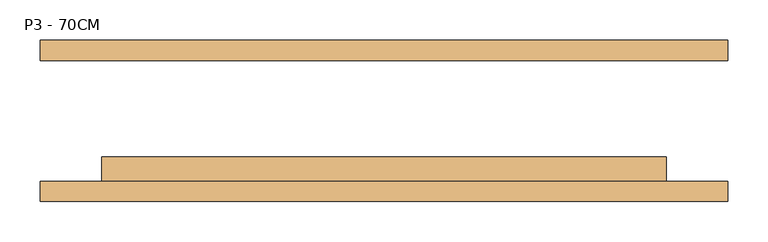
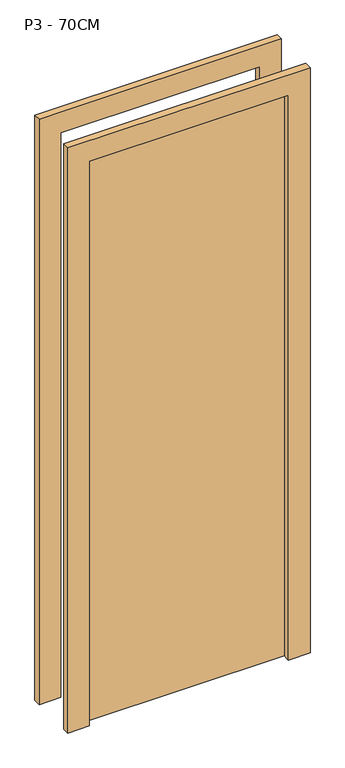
"""IFC4 building model written with IfcOpenShell, lengths in millimetres: door geometry, M_Folha única1 : P3 - 70CM."""

from ifc_helpers import new_model, si_unit, frame, origin, origin_with_axes, place, context, project, spatial, polyline, outline, extrude, source, transform, mapped, element, save


def p3_70cm_0a698c7c(model_context):
    return source(origin(), model_context, "Body", "SweptSolid", [
        extrude(outline(polyline([(2176.0, -426.0), (0.0, -426.0), (0.0, -350.0), (2100.0, -350.0), (2100.0, 350.0), (0.0, 350.0), (0.0, 426.0), (2176.0, 426.0), (2176.0, -426.0)])), frame((0.0, -100.0, 0.0), z_axis=(0.0, 1.0, 0.0), x_axis=(0.0, 0.0, 1.0)), (0.0, 0.0, 1.0), 25.0),
        extrude(outline(polyline([(2176.0, 426.0), (2176.0, -426.0), (0.0, -426.0), (0.0, -350.0), (2100.0, -350.0), (2100.0, 350.0), (0.0, 350.0), (0.0, 426.0), (2176.0, 426.0)])), frame((0.0, 75.0, 0.0), z_axis=(0.0, 1.0, 0.0), x_axis=(0.0, 0.0, 1.0)), (0.0, 0.0, 1.0), 25.0),
        extrude(outline(polyline([(350.0, -45.0), (350.0, -75.0), (-350.0, -75.0), (-350.0, -45.0), (350.0, -45.0)])), origin_with_axes(), (0.0, 0.0, 1.0), 2100.0),
    ])


if __name__ == "__main__":
    model = new_model("IFC4")
    model_context = context("Model", 3, world=origin())
    ifc_project = project(units=[si_unit("LENGTHUNIT", "METRE", prefix="MILLI")], contexts=[model_context])
    site = spatial("IfcSite", under=ifc_project)
    building = spatial("IfcBuilding", under=site)
    placement = place(None, origin())
    p3_70cm_shape = p3_70cm_0a698c7c(model_context)
    element("IfcDoor", 1, ObjectType="M_Folha única1 : P3 - 70CM", at=placement, inside=building, context=model_context, shape_type="MappedRepresentation", body=[
        mapped(p3_70cm_shape, transform((0.0, 0.0, 0.0), x_axis=(1.0, 0.0, 0.0), y_axis=(0.0, 1.0, 0.0), z_axis=(0.0, 0.0, 1.0))),
    ])
    save(model, "model.ifc")
